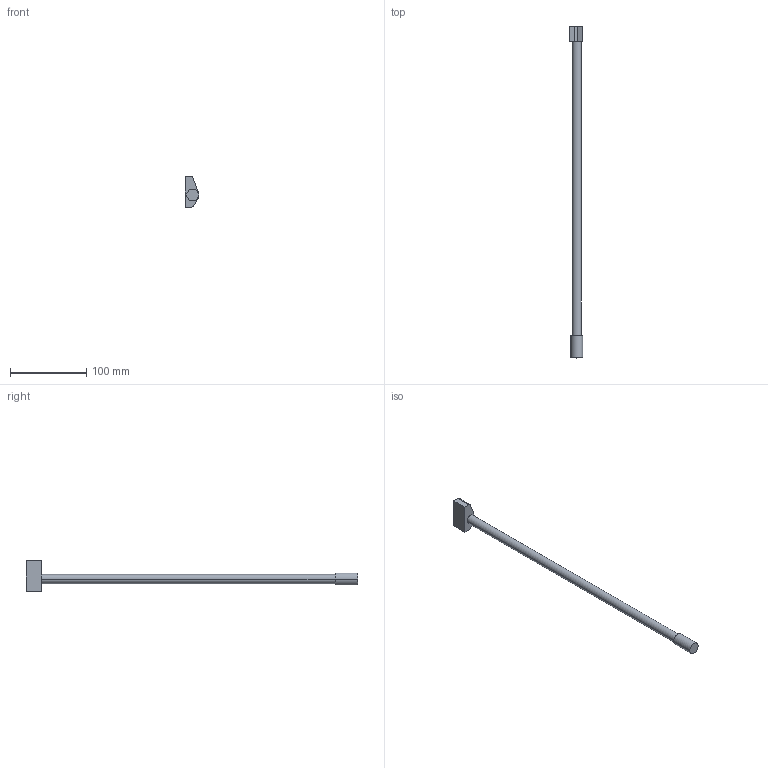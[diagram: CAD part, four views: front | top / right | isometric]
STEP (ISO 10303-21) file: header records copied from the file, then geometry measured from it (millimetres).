
FILE_DESCRIPTION (( 'STEP AP214' ), '1' );
FILE_NAME ('DWD-XP-Anschraubreling _NL-450_rechts.step', '2010-09-27T06:30:46', ( 'grass' ), ( '' ), 'SwSTEP 2.0', 'SolidWorks 2010', '' );
FILE_SCHEMA (( 'AUTOMOTIVE_DESIGN' ));
Length unit declared in the file: millimetre
Products named in the file (1): DWD-XP-Anschraubreling _NL-450_rechts
Bounding box: 18 x 434.3 x 40.1 mm (x, y, z)
Volume: 60669 mm3; surface area: 19307 mm2
Topology: 1 solids, 1 shells, 17 faces, 39 edges, 26 vertices
Faces by surface type: plane 9, cylinder 8
Entity records: 523 total; most frequent: DIRECTION 91, CARTESIAN_POINT 83, ORIENTED_EDGE 78, EDGE_CURVE 39, AXIS2_PLACEMENT_3D 34, VERTEX_POINT 26, VECTOR 23, LINE 23
